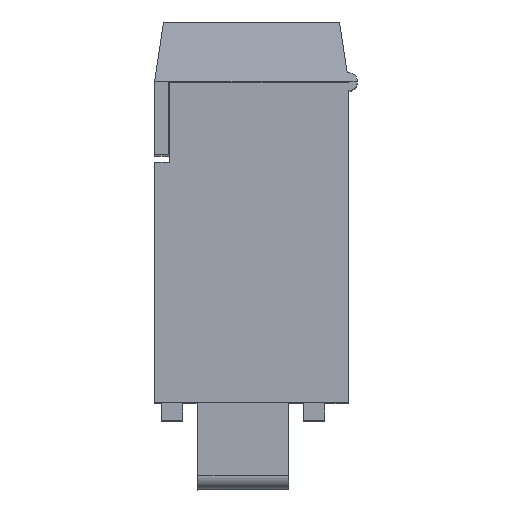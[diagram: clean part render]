
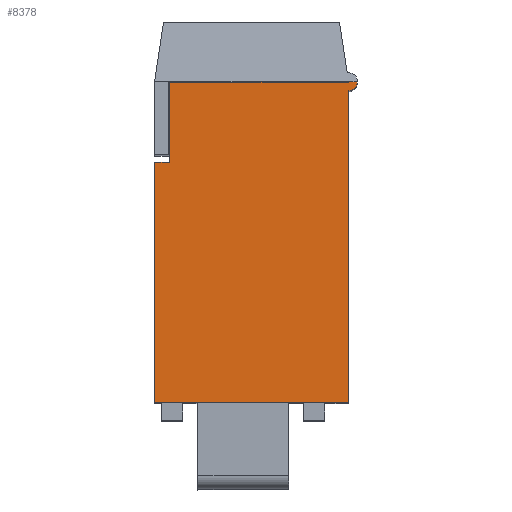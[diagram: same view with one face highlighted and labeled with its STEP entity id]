
A CAD part, top view. The second image highlights one B-rep face of the part: STEP entity #8378.
In plain terms, the highlighted planar face has unit normal (0, 0, 1).
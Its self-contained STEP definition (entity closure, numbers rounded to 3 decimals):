
#27 = DIRECTION ( 'NONE',  ( 0., -1., 0. ) ) ;
#43 = CARTESIAN_POINT ( 'NONE',  ( 3.558, 2.759, 0. ) ) ;
#72 = DIRECTION ( 'NONE',  ( 0., -1., 0. ) ) ;
#104 = DIRECTION ( 'NONE',  ( 0., 0., 1. ) ) ;
#107 = CARTESIAN_POINT ( 'NONE',  ( 3.558, 13.809, 0. ) ) ;
#336 = DIRECTION ( 'NONE',  ( 0., -1., 0. ) ) ;
#337 = CARTESIAN_POINT ( 'NONE',  ( 3.558, 3.059, 0. ) ) ;
#1743 = DIRECTION ( 'NONE',  ( -1., 0., 0. ) ) ;
#1744 = CARTESIAN_POINT ( 'NONE',  ( -8.942, 8.409, 0. ) ) ;
#3459 = CARTESIAN_POINT ( 'NONE',  ( 4.158, 13.809, 0. ) ) ;
#3494 = CARTESIAN_POINT ( 'NONE',  ( 3.558, 13.209, 0. ) ) ;
#3548 = CARTESIAN_POINT ( 'NONE',  ( -8.442, 13.784, 0. ) ) ;
#3572 = CARTESIAN_POINT ( 'NONE',  ( 3.558, -7.691, 0. ) ) ;
#3962 = EDGE_CURVE ( 'NONE', #14666, #13891, #15492, .T. ) ;
#5131 = VECTOR ( 'NONE', #12542, 1000. ) ;
#5134 = VECTOR ( 'NONE', #12913, 1000. ) ;
#5180 = AXIS2_PLACEMENT_3D ( 'NONE', #11315, #11382, #11423 ) ;
#5369 = VECTOR ( 'NONE', #10865, 1000. ) ;
#5512 = CARTESIAN_POINT ( 'NONE',  ( -9.442, 8.409, 0. ) ) ;
#5569 = CARTESIAN_POINT ( 'NONE',  ( 3.558, 13.784, 0. ) ) ;
#5619 = CARTESIAN_POINT ( 'NONE',  ( 3.558, 13.809, 0. ) ) ;
#5706 = CARTESIAN_POINT ( 'NONE',  ( -9.442, -7.691, 0. ) ) ;
#5730 = CARTESIAN_POINT ( 'NONE',  ( -8.442, 8.409, 0. ) ) ;
#6903 = VECTOR ( 'NONE', #1743, 1000. ) ;
#7149 = LINE ( 'NONE', #11441, #5369 ) ;
#7210 = FACE_OUTER_BOUND ( 'NONE', #14294, .T. ) ;
#7493 = LINE ( 'NONE', #12634, #5134 ) ;
#7495 = LINE ( 'NONE', #12822, #5131 ) ;
#7611 = LINE ( 'NONE', #16824, #16536 ) ;
#7827 = LINE ( 'NONE', #337, #16031 ) ;
#7914 = LINE ( 'NONE', #43, #16211 ) ;
#7949 = LINE ( 'NONE', #9673, #12306 ) ;
#8329 = EDGE_CURVE ( 'NONE', #13541, #14286, #7149, .T. ) ;
#8378 = ADVANCED_FACE ( 'NONE', ( #7210 ), #11065, .T. ) ;
#8575 = EDGE_CURVE ( 'NONE', #13730, #14666, #7493, .T. ) ;
#8577 = EDGE_CURVE ( 'NONE', #13891, #14573, #7495, .T. ) ;
#8630 = EDGE_CURVE ( 'NONE', #14110, #13730, #7611, .T. ) ;
#8761 = EDGE_CURVE ( 'NONE', #14286, #14110, #7827, .T. ) ;
#8826 = EDGE_CURVE ( 'NONE', #13608, #13541, #16147, .T. ) ;
#8828 = EDGE_CURVE ( 'NONE', #13608, #13773, #7914, .T. ) ;
#8894 = EDGE_CURVE ( 'NONE', #13773, #14573, #7949, .T. ) ;
#9643 = DIRECTION ( 'NONE',  ( -1., 0., 0. ) ) ;
#9673 = CARTESIAN_POINT ( 'NONE',  ( -2.942, -7.691, 0. ) ) ;
#9806 = ORIENTED_EDGE ( 'NONE', *, *, #8894, .F. ) ;
#9816 = ORIENTED_EDGE ( 'NONE', *, *, #8575, .T. ) ;
#9823 = ORIENTED_EDGE ( 'NONE', *, *, #8826, .T. ) ;
#9850 = ORIENTED_EDGE ( 'NONE', *, *, #8577, .T. ) ;
#10146 = ORIENTED_EDGE ( 'NONE', *, *, #8828, .F. ) ;
#10229 = ORIENTED_EDGE ( 'NONE', *, *, #3962, .T. ) ;
#10256 = ORIENTED_EDGE ( 'NONE', *, *, #8630, .T. ) ;
#10401 = ORIENTED_EDGE ( 'NONE', *, *, #8761, .T. ) ;
#10564 = ORIENTED_EDGE ( 'NONE', *, *, #8329, .T. ) ;
#10865 = DIRECTION ( 'NONE',  ( -1., 0., 0. ) ) ;
#11065 = PLANE ( 'NONE',  #5180 ) ;
#11315 = CARTESIAN_POINT ( 'NONE',  ( -9.442, -7.691, 0. ) ) ;
#11382 = DIRECTION ( 'NONE',  ( 0., 0., 1. ) ) ;
#11423 = DIRECTION ( 'NONE',  ( 1., 0., 0. ) ) ;
#11441 = CARTESIAN_POINT ( 'NONE',  ( -2.642, 13.809, 0. ) ) ;
#12306 = VECTOR ( 'NONE', #9643, 1000. ) ;
#12542 = DIRECTION ( 'NONE',  ( 0., -1., 0. ) ) ;
#12634 = CARTESIAN_POINT ( 'NONE',  ( -8.442, 3.059, 0. ) ) ;
#12822 = CARTESIAN_POINT ( 'NONE',  ( -9.442, 3.059, 0. ) ) ;
#12913 = DIRECTION ( 'NONE',  ( 0., -1., 0. ) ) ;
#13541 = VERTEX_POINT ( 'NONE', #3459 ) ;
#13608 = VERTEX_POINT ( 'NONE', #3494 ) ;
#13730 = VERTEX_POINT ( 'NONE', #3548 ) ;
#13773 = VERTEX_POINT ( 'NONE', #3572 ) ;
#13891 = VERTEX_POINT ( 'NONE', #5512 ) ;
#14110 = VERTEX_POINT ( 'NONE', #5569 ) ;
#14286 = VERTEX_POINT ( 'NONE', #5619 ) ;
#14294 = EDGE_LOOP ( 'NONE', ( #10146, #9823, #10564, #10401, #10256, #9816, #10229, #9850, #9806 ) ) ;
#14573 = VERTEX_POINT ( 'NONE', #5706 ) ;
#14666 = VERTEX_POINT ( 'NONE', #5730 ) ;
#15492 = LINE ( 'NONE', #1744, #6903 ) ;
#16031 = VECTOR ( 'NONE', #336, 1000. ) ;
#16147 = CIRCLE ( 'NONE', #16192, 0.6 ) ;
#16192 = AXIS2_PLACEMENT_3D ( 'NONE', #107, #104, #72 ) ;
#16211 = VECTOR ( 'NONE', #27, 1000. ) ;
#16536 = VECTOR ( 'NONE', #16823, 1000. ) ;
#16823 = DIRECTION ( 'NONE',  ( -1., 0., 0. ) ) ;
#16824 = CARTESIAN_POINT ( 'NONE',  ( -2.601, 13.784, 0. ) ) ;
